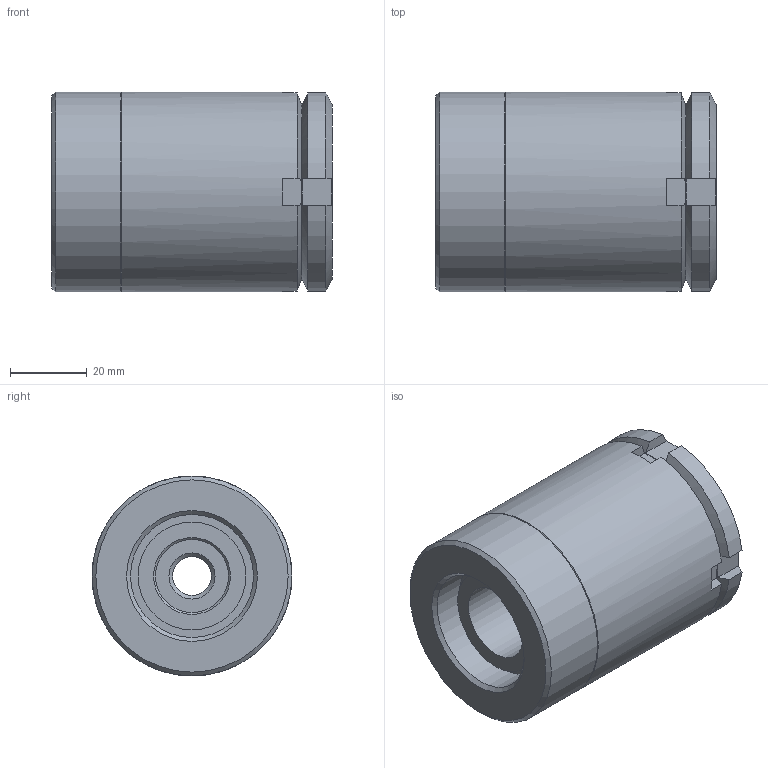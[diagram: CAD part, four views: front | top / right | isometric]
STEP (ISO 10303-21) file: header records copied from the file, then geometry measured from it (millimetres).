
FILE_DESCRIPTION( ( 'STEP AP203' ), '1' );
FILE_NAME( 'C:/Temp/Ganter_Step_05_03_2020/data/3_2/gn360/gn360_st/Levelling set GN 360-52-M12-103-A-ST (0-0).stp', '2020-03-13T05:41:48', ( 'License CC BY-ND 4.0' ), ( 'CADENAS' ), ' ', 'PARTsolutions', ' ' );
FILE_SCHEMA( ( 'CONFIG_CONTROL_DESIGN' ) );
Length unit declared in the file: millimetre
Products named in the file (4): Levelling set GN 360-52-M12-103-A-ST (0-0); _Levelling set GN 360-52-M12-103-A-ST (0-0)-1; _Levelling set GN 360-52-M12-103-A-ST (0-0)-2; _Levelling set GN 360-52-M12-103-A-ST (0-0)-3
Assembly tree (3 placements, depth 2):
  Levelling set GN 360-52-M12-103-A-ST (0-0)
    _Levelling set GN 360-52-M12-103-A-ST (0-0)-1
    _Levelling set GN 360-52-M12-103-A-ST (0-0)-2
    _Levelling set GN 360-52-M12-103-A-ST (0-0)-3
Bounding box: 73 x 52 x 52 mm (x, y, z)
Volume: 130362.2 mm3; surface area: 38145 mm2
Topology: 3 solids, 3 shells, 72 faces, 167 edges, 107 vertices
Faces by surface type: plane 40, cylinder 17, cone 12, sphere 2, torus 1
Full cylindrical faces by diameter (mm): 10.106 x1, 19 x1, 20 x1, 22.5 x1, 27 x1, 28 x1, 32 x1, 34 x1, 34.376 x1, 36 x1, 36.5 x1, 52 x2
Entity records: 2129 total; most frequent: CARTESIAN_POINT 508, DIRECTION 304, ORIENTED_EDGE 268, EDGE_CURVE 134, AXIS2_PLACEMENT_3D 130, EDGE_LOOP 112, VERTEX_POINT 102, FACE_OUTER_BOUND 88
